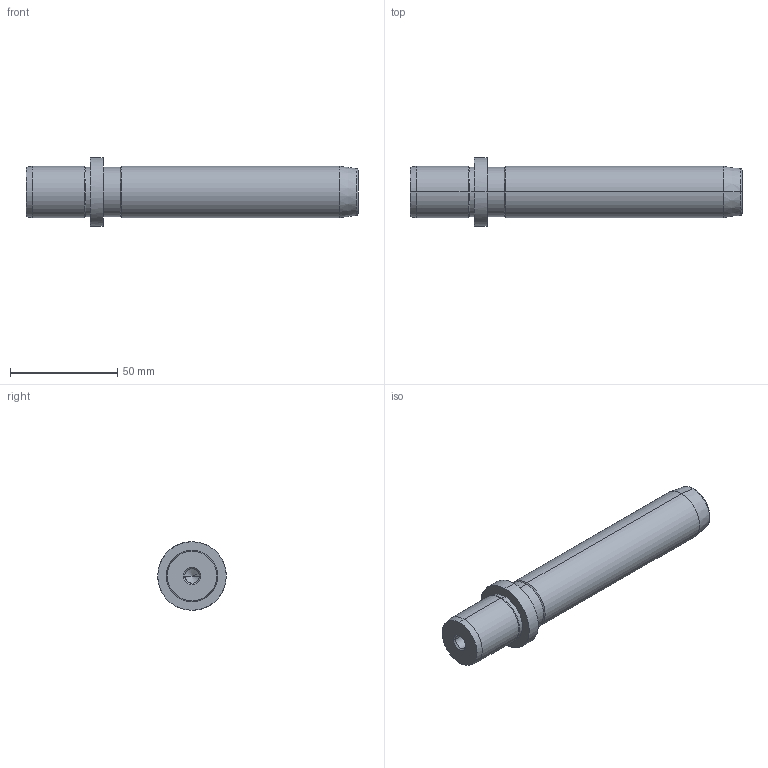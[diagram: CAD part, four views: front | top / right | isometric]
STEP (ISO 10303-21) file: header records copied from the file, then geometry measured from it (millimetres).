
FILE_DESCRIPTION(('CATIA V5 STEP Exchange'),'2;1');
FILE_NAME('C:\Users\Utente\Desktop\IO LAVORO\3D X SITO CF\X SITO\718\718-24x125.stp','2021-01-02T15:20:17+00:00',('none'),('none'),'CATIA Version 5 Release 20 GA (IN-10)','CATIA V5 STEP AP203','none');
FILE_SCHEMA(('CONFIG_CONTROL_DESIGN'));
Length unit declared in the file: millimetre
Products named in the file (1): 718-24x125
Bounding box: 155 x 32 x 32 mm (x, y, z)
Volume: 69689.2 mm3; surface area: 14343.4 mm2
Topology: 1 solids, 1 shells, 36 faces, 100 edges, 66 vertices
Faces by surface type: cone 16, cylinder 14, plane 4, torus 2
Entity records: 1291 total; most frequent: CARTESIAN_POINT 362, ORIENTED_EDGE 192, DIRECTION 157, EDGE_CURVE 96, AXIS2_PLACEMENT_3D 92, VERTEX_POINT 66, CIRCLE 55, EDGE_LOOP 40
